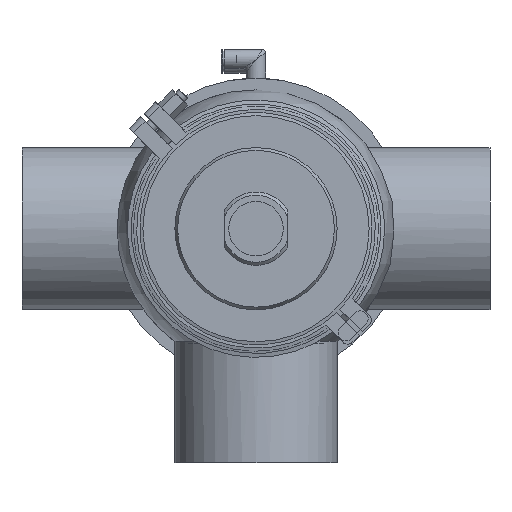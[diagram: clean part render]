
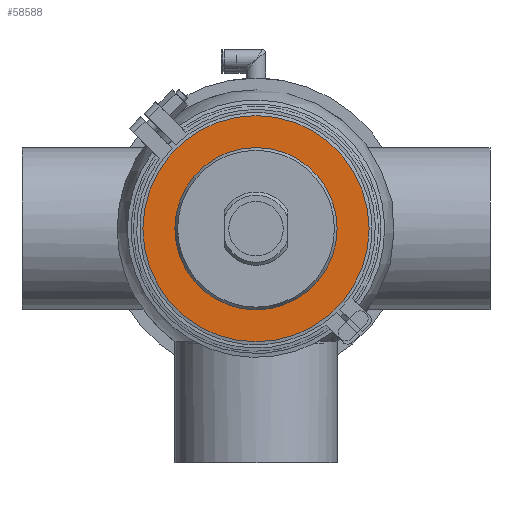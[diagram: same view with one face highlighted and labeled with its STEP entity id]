
A CAD part, front view. The second image highlights one B-rep face of the part: STEP entity #58588.
In plain terms, the highlighted planar face has unit normal (0, -1, 0).
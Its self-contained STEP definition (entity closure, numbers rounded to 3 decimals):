
#4649 = EDGE_CURVE ( 'NONE', #54892, #54892, #24869, .T. ) ;
#6629 = CARTESIAN_POINT ( 'NONE',  ( 0., -13., 0. ) ) ;
#7268 = DIRECTION ( 'NONE',  ( 0., 0., 1. ) ) ;
#8232 = EDGE_LOOP ( 'NONE', ( #10905 ) ) ;
#9536 = DIRECTION ( 'NONE',  ( 0., 1., 0. ) ) ;
#10234 = FACE_BOUND ( 'NONE', #61298, .T. ) ;
#10466 = CARTESIAN_POINT ( 'NONE',  ( 0., -13., 0. ) ) ;
#10905 = ORIENTED_EDGE ( 'NONE', *, *, #4649, .F. ) ;
#11419 = ORIENTED_EDGE ( 'NONE', *, *, #43545, .T. ) ;
#14056 = CARTESIAN_POINT ( 'NONE',  ( 0., -13., 52. ) ) ;
#21474 = CARTESIAN_POINT ( 'NONE',  ( 0., -13., 72.5 ) ) ;
#24306 = DIRECTION ( 'NONE',  ( 0., 0., 1. ) ) ;
#24397 = FACE_OUTER_BOUND ( 'NONE', #8232, .T. ) ;
#24869 = CIRCLE ( 'NONE', #36139, 72.5 ) ;
#26475 = AXIS2_PLACEMENT_3D ( 'NONE', #6629, #59991, #7268 ) ;
#36139 = AXIS2_PLACEMENT_3D ( 'NONE', #10466, #9536, #24306 ) ;
#39462 = PLANE ( 'NONE',  #55027 ) ;
#43545 = EDGE_CURVE ( 'NONE', #62576, #62576, #50087, .T. ) ;
#50087 = CIRCLE ( 'NONE', #26475, 52. ) ;
#54250 = CARTESIAN_POINT ( 'NONE',  ( -72.5, -13., 0. ) ) ;
#54892 = VERTEX_POINT ( 'NONE', #21474 ) ;
#55027 = AXIS2_PLACEMENT_3D ( 'NONE', #54250, #59092, #59420 ) ;
#58588 = ADVANCED_FACE ( 'NONE', ( #10234, #24397 ), #39462, .T. ) ;
#59092 = DIRECTION ( 'NONE',  ( 0., -1., 0. ) ) ;
#59420 = DIRECTION ( 'NONE',  ( 0., 0., -1. ) ) ;
#59991 = DIRECTION ( 'NONE',  ( 0., 1., 0. ) ) ;
#61298 = EDGE_LOOP ( 'NONE', ( #11419 ) ) ;
#62576 = VERTEX_POINT ( 'NONE', #14056 ) ;
